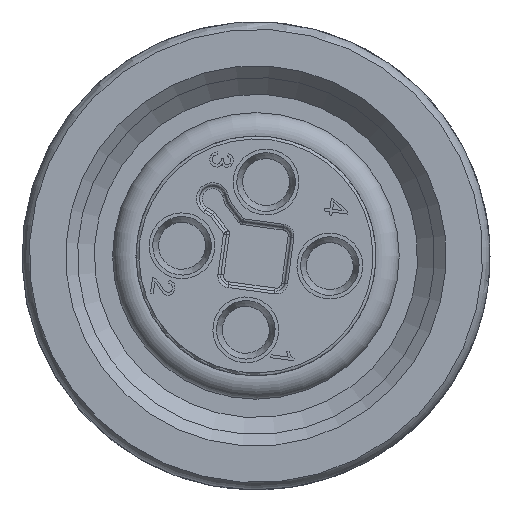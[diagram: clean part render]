
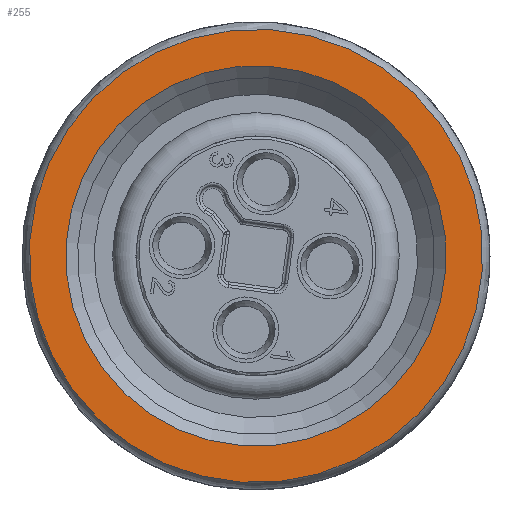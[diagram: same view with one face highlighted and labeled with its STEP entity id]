
A CAD part, left-side view. The second image highlights one B-rep face of the part: STEP entity #255.
In plain terms, the highlighted planar face has unit normal (-1, 0, 0).
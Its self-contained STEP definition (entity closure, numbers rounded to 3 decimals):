
#255 = ADVANCED_FACE( '', ( #677, #678 ), #679, .T. );
#677 = FACE_OUTER_BOUND( '', #1318, .T. );
#678 = FACE_BOUND( '', #1319, .T. );
#679 = PLANE( '', #1320 );
#1318 = EDGE_LOOP( '', ( #2122 ) );
#1319 = EDGE_LOOP( '', ( #2123 ) );
#1320 = AXIS2_PLACEMENT_3D( '', #2124, #2125, #2126 );
#2122 = ORIENTED_EDGE( '', *, *, #3746, .F. );
#2123 = ORIENTED_EDGE( '', *, *, #3654, .T. );
#2124 = CARTESIAN_POINT( '', ( -25., -4.983, 0.425 ) );
#2125 = DIRECTION( '', ( -1., 0., 0. ) );
#2126 = DIRECTION( '', ( 0., 1., 0. ) );
#3654 = EDGE_CURVE( '', #4234, #4234, #4235, .T. );
#3746 = EDGE_CURVE( '', #4396, #4396, #4397, .T. );
#4234 = VERTEX_POINT( '', #5105 );
#4235 = CIRCLE( '', #5106, 6.5 );
#4396 = VERTEX_POINT( '', #5420 );
#4397 = CIRCLE( '', #5421, 7.75 );
#5105 = CARTESIAN_POINT( '', ( -25., -3.74, 0.294 ) );
#5106 = AXIS2_PLACEMENT_3D( '', #6610, #6611, #6612 );
#5420 = CARTESIAN_POINT( '', ( -25., -4.983, 0.425 ) );
#5421 = AXIS2_PLACEMENT_3D( '', #6715, #6716, #6717 );
#6610 = CARTESIAN_POINT( '', ( -25., 2.724, -0.388 ) );
#6611 = DIRECTION( '', ( 1., 0., 0. ) );
#6612 = DIRECTION( '', ( 0., -0.994, 0.105 ) );
#6715 = CARTESIAN_POINT( '', ( -25., 2.724, -0.388 ) );
#6716 = DIRECTION( '', ( 1., 0., 0. ) );
#6717 = DIRECTION( '', ( 0., -0.994, 0.105 ) );
